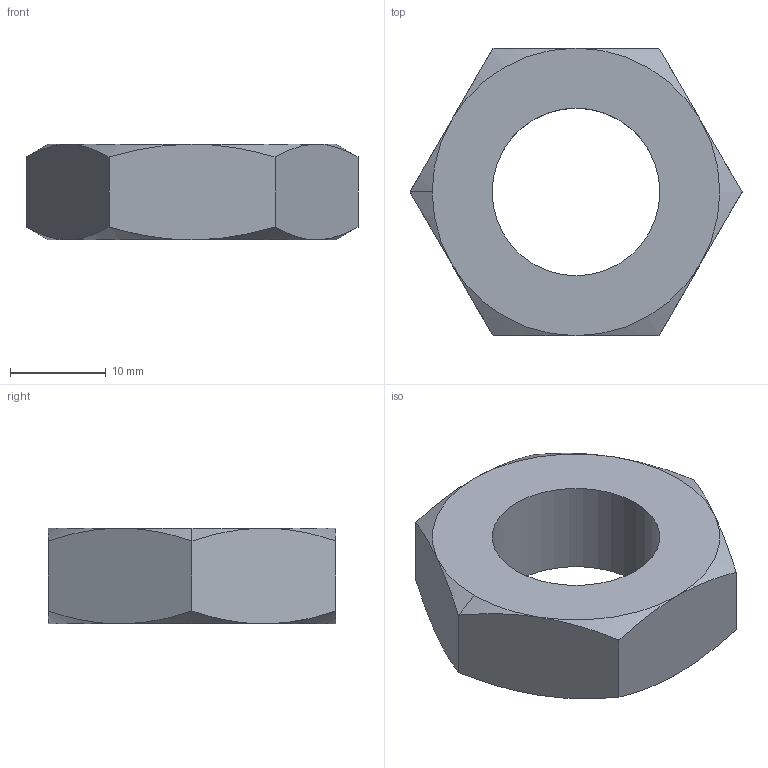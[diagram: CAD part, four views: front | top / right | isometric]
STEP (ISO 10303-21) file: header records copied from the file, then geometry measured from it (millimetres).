
FILE_DESCRIPTION (( 'STEP AP203' ), '1' );
FILE_NAME ('32700.W0520.step', '2016-02-10T17:14:18', ( 'User' ), ( '' ), 'SwSTEP 2.0', 'SolidWorks 2009', '' );
FILE_SCHEMA (( 'CONFIG_CONTROL_DESIGN' ));
Length unit declared in the file: millimetre
Products named in the file (1): 32700.W0520
Bounding box: 34.64 x 30 x 10 mm (x, y, z)
Volume: 5330.3 mm3; surface area: 2593.7 mm2
Topology: 1 solids, 1 shells, 24 faces, 52 edges, 30 vertices
Faces by surface type: cone 14, plane 8, cylinder 2
Entity records: 827 total; most frequent: CARTESIAN_POINT 259, ORIENTED_EDGE 104, DIRECTION 96, EDGE_CURVE 52, AXIS2_PLACEMENT_3D 43, VERTEX_POINT 30, EDGE_LOOP 26, ADVANCED_FACE 24
